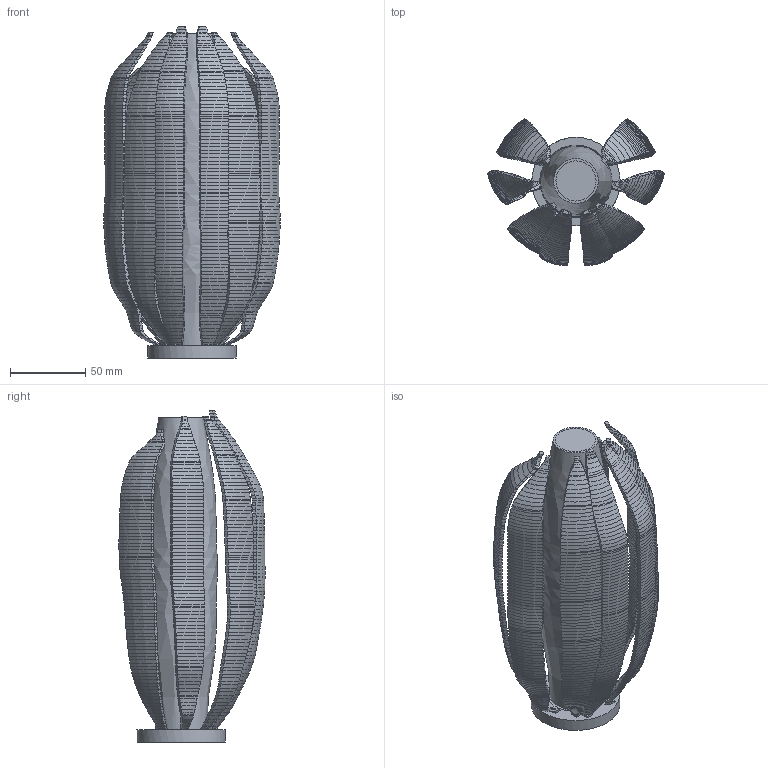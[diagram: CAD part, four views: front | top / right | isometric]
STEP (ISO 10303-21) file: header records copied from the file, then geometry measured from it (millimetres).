
FILE_DESCRIPTION(('Open CASCADE Model'),'2;1');
FILE_NAME('Open CASCADE Shape Model','2026-11-18T16:59:36',('Author'),( 'Open CASCADE'),'Open CASCADE STEP processor 7.9','Open CASCADE 7.9' ,'Unknown');
FILE_SCHEMA(('AUTOMOTIVE_DESIGN { 1 0 10303 214 1 1 1 1 }'));
Length unit declared in the file: millimetre
Products named in the file (13): NORTHERN_CONCEPT_C_R04; RIB_FRONT_L; RIB_FRONT_R; RIB_SHOULDER_L; RIB_SHOULDER_R; RIB_OUTER_L; RIB_OUTER_R; RIB_REAR_L; RIB_REAR_R; BASE; DIFFUSER; AL_CORE; BALLAST
Assembly tree (12 placements, depth 2):
  NORTHERN_CONCEPT_C_R04
    RIB_FRONT_L
    RIB_FRONT_R
    RIB_SHOULDER_L
    RIB_SHOULDER_R
    RIB_OUTER_L
    RIB_OUTER_R
    RIB_REAR_L
    RIB_REAR_R
    BASE
    DIFFUSER
    AL_CORE
    BALLAST
Bounding box: 116.94 x 96.78 x 220 mm (x, y, z)
Volume: 157633.1 mm3; surface area: 156420.6 mm2
Topology: 12 solids, 12 shells, 3312 faces, 6759 edges, 3466 vertices
Faces by surface type: bspline 3154, plane 142, cylinder 16
Full cylindrical faces by diameter (mm): 10 x1, 16 x1, 30.2 x1, 49.6 x1, 58.6 x1
Entity records: 271376 total; most frequent: CARTESIAN_POINT 152243, DIRECTION 13977, LINE 13544, VECTOR 13544, ORIENTED_EDGE 13518, PCURVE 13518, DEFINITIONAL_REPRESENTATION 13518, EDGE_CURVE 6759
